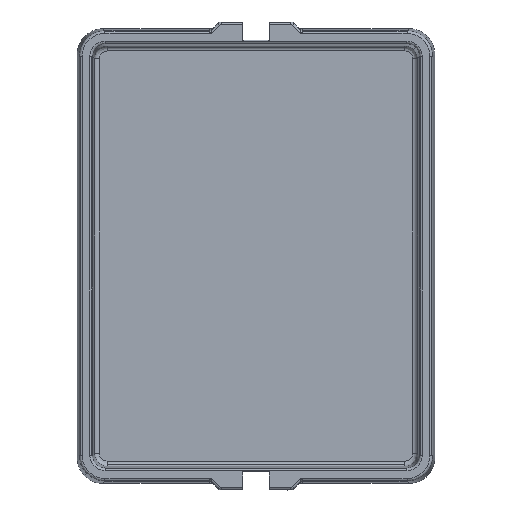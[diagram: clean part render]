
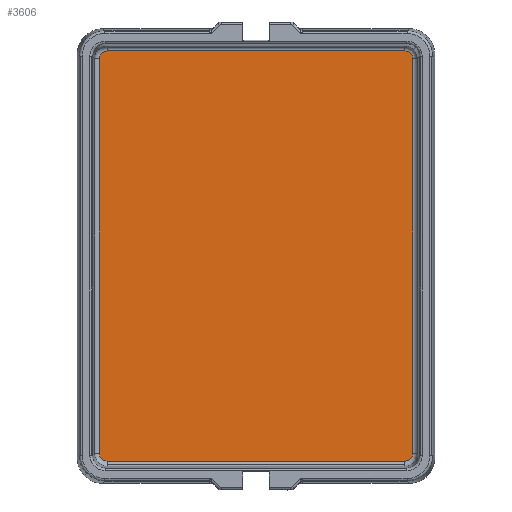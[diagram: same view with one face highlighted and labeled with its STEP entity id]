
A CAD part, top view. The second image highlights one B-rep face of the part: STEP entity #3606.
In plain terms, the highlighted planar face has unit normal (0, 0, 1).
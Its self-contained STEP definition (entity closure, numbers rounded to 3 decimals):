
#3606=ADVANCED_FACE('',(#6398),#6399,.T.);
#6398=FACE_OUTER_BOUND('',#14410,.T.);
#6399=PLANE('',#14411);
#14410=EDGE_LOOP('',(#18241,#18242,#18243,#18244,#18245,#18246,#18247,#18248));
#14411=AXIS2_PLACEMENT_3D('',#18249,#18250,#18251);
#18241=ORIENTED_EDGE('',*,*,#21558,.F.);
#18242=ORIENTED_EDGE('',*,*,#21562,.F.);
#18243=ORIENTED_EDGE('',*,*,#21581,.F.);
#18244=ORIENTED_EDGE('',*,*,#21585,.F.);
#18245=ORIENTED_EDGE('',*,*,#21571,.F.);
#18246=ORIENTED_EDGE('',*,*,#21577,.F.);
#18247=ORIENTED_EDGE('',*,*,#21565,.F.);
#18248=ORIENTED_EDGE('',*,*,#21568,.F.);
#18249=CARTESIAN_POINT('',(0.,229.0,2.5));
#18250=DIRECTION('',(0.,0.0,1.0));
#18251=DIRECTION('',(1.0,0.0,0.));
#21558=EDGE_CURVE('',#24692,#24694,#24695,.T.);
#21562=EDGE_CURVE('',#24698,#24692,#24700,.T.);
#21565=EDGE_CURVE('',#24702,#24704,#24705,.T.);
#21568=EDGE_CURVE('',#24694,#24702,#24708,.T.);
#21571=EDGE_CURVE('',#24710,#24712,#24713,.T.);
#21577=EDGE_CURVE('',#24704,#24710,#24719,.T.);
#21581=EDGE_CURVE('',#24722,#24698,#24724,.T.);
#21585=EDGE_CURVE('',#24712,#24722,#24728,.T.);
#24692=VERTEX_POINT('',#27210);
#24694=VERTEX_POINT('',#27212);
#24695=ELLIPSE('',#27213,7.509,7.5);
#24698=VERTEX_POINT('',#27216);
#24700=LINE('',#27218,#27219);
#24702=VERTEX_POINT('',#27221);
#24704=VERTEX_POINT('',#27223);
#24705=ELLIPSE('',#27224,7.509,7.5);
#24708=LINE('',#27227,#27228);
#24710=VERTEX_POINT('',#27230);
#24712=VERTEX_POINT('',#27232);
#24713=ELLIPSE('',#27233,7.509,7.5);
#24719=LINE('',#27240,#27241);
#24722=VERTEX_POINT('',#27244);
#24724=ELLIPSE('',#27246,7.509,7.5);
#24728=LINE('',#27250,#27251);
#27210=CARTESIAN_POINT('',(-153.219,422.224,2.5));
#27212=CARTESIAN_POINT('',(-145.724,429.719,2.5));
#27213=AXIS2_PLACEMENT_3D('',#29248,#29249,#29250);
#27216=CARTESIAN_POINT('',(-153.219,35.776,2.5));
#27218=CARTESIAN_POINT('',(-153.219,332.865,2.5));
#27219=VECTOR('',#29257,10.0);
#27221=CARTESIAN_POINT('',(145.724,429.719,2.5));
#27223=CARTESIAN_POINT('',(153.219,422.224,2.5));
#27224=AXIS2_PLACEMENT_3D('',#29261,#29262,#29263);
#27227=CARTESIAN_POINT('',(80.115,429.719,2.5));
#27228=VECTOR('',#29267,10.0);
#27230=CARTESIAN_POINT('',(153.219,35.776,2.5));
#27232=CARTESIAN_POINT('',(145.724,28.281,2.5));
#27233=AXIS2_PLACEMENT_3D('',#29271,#29272,#29273);
#27240=CARTESIAN_POINT('',(153.219,125.135,2.5));
#27241=VECTOR('',#29281,10.0);
#27244=CARTESIAN_POINT('',(-145.724,28.281,2.5));
#27246=AXIS2_PLACEMENT_3D('',#29285,#29286,#29287);
#27250=CARTESIAN_POINT('',(-80.115,28.281,2.5));
#27251=VECTOR('',#29291,10.0);
#29248=CARTESIAN_POINT('',(-145.715,422.215,2.5));
#29249=DIRECTION('',(0.0,0.,-1.0));
#29250=DIRECTION('',(-0.707,0.707,0.));
#29257=DIRECTION('',(0.,1.0,0.0));
#29261=CARTESIAN_POINT('',(145.715,422.215,2.5));
#29262=DIRECTION('',(0.,0.,-1.0));
#29263=DIRECTION('',(0.707,0.707,0.));
#29267=DIRECTION('',(1.0,0.,0.));
#29271=CARTESIAN_POINT('',(145.715,35.785,2.5));
#29272=DIRECTION('',(0.0,0.,-1.0));
#29273=DIRECTION('',(0.707,-0.707,0.));
#29281=DIRECTION('',(0.,-1.0,0.0));
#29285=CARTESIAN_POINT('',(-145.715,35.785,2.5));
#29286=DIRECTION('',(0.,0.0,-1.0));
#29287=DIRECTION('',(-0.707,-0.707,0.));
#29291=DIRECTION('',(-1.0,0.,0.));
